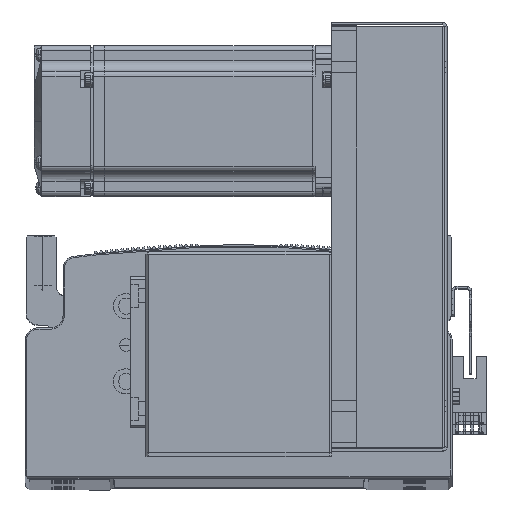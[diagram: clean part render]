
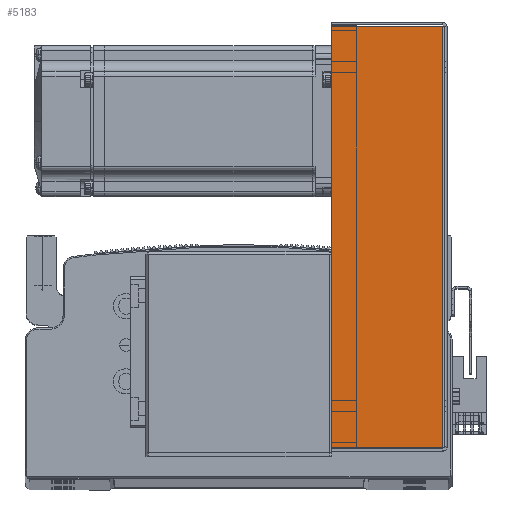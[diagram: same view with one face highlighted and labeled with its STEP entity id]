
A CAD part, top view. The second image highlights one B-rep face of the part: STEP entity #5183.
In plain terms, the highlighted planar face has unit normal (0, 0, 1).
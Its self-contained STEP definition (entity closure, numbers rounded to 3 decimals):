
#5183 = ADVANCED_FACE ( 'NONE', ( #86988 ), #57397, .F. ) ;
#15684 = DIRECTION ( 'NONE',  ( 0., 1., 0. ) ) ;
#15697 = CARTESIAN_POINT ( 'NONE',  ( -83.793, 0., 40.5 ) ) ;
#15737 = CARTESIAN_POINT ( 'NONE',  ( -84.5, 45., 40.5 ) ) ;
#15740 = DIRECTION ( 'NONE',  ( -1., 0., 0. ) ) ;
#15784 = CARTESIAN_POINT ( 'NONE',  ( 0., 0.737, 40.5 ) ) ;
#15808 = DIRECTION ( 'NONE',  ( -1., 0., 0. ) ) ;
#15891 = DIRECTION ( 'NONE',  ( 0., 1., 0. ) ) ;
#15892 = CARTESIAN_POINT ( 'NONE',  ( 83.793, 0., 40.5 ) ) ;
#20154 = EDGE_CURVE ( 'NONE', #41317, #41325, #74612, .T. ) ;
#20169 = EDGE_CURVE ( 'NONE', #41302, #41325, #74618, .T. ) ;
#20180 = EDGE_CURVE ( 'NONE', #41282, #41317, #74128, .T. ) ;
#20212 = EDGE_CURVE ( 'NONE', #41282, #41302, #75677, .T. ) ;
#34733 = AXIS2_PLACEMENT_3D ( 'NONE', #57378, #57398, #57363 ) ;
#40864 = EDGE_LOOP ( 'NONE', ( #56394, #56451, #56248, #56336 ) ) ;
#41282 = VERTEX_POINT ( 'NONE', #47616 ) ;
#41302 = VERTEX_POINT ( 'NONE', #47605 ) ;
#41317 = VERTEX_POINT ( 'NONE', #47596 ) ;
#41325 = VERTEX_POINT ( 'NONE', #47690 ) ;
#47596 = CARTESIAN_POINT ( 'NONE',  ( -83.793, 0.737, 40.5 ) ) ;
#47605 = CARTESIAN_POINT ( 'NONE',  ( 83.793, 45., 40.5 ) ) ;
#47616 = CARTESIAN_POINT ( 'NONE',  ( 83.793, 0.737, 40.5 ) ) ;
#47690 = CARTESIAN_POINT ( 'NONE',  ( -83.793, 45., 40.5 ) ) ;
#56248 = ORIENTED_EDGE ( 'NONE', *, *, #20169, .T. ) ;
#56336 = ORIENTED_EDGE ( 'NONE', *, *, #20154, .F. ) ;
#56394 = ORIENTED_EDGE ( 'NONE', *, *, #20180, .F. ) ;
#56451 = ORIENTED_EDGE ( 'NONE', *, *, #20212, .T. ) ;
#57363 = DIRECTION ( 'NONE',  ( -1., 0., 0. ) ) ;
#57378 = CARTESIAN_POINT ( 'NONE',  ( 0., 0., 40.5 ) ) ;
#57397 = PLANE ( 'NONE',  #34733 ) ;
#57398 = DIRECTION ( 'NONE',  ( 0., 0., -1. ) ) ;
#74128 = LINE ( 'NONE', #15784, #74140 ) ;
#74140 = VECTOR ( 'NONE', #15808, 1000. ) ;
#74601 = VECTOR ( 'NONE', #15740, 1000. ) ;
#74612 = LINE ( 'NONE', #15697, #74625 ) ;
#74618 = LINE ( 'NONE', #15737, #74601 ) ;
#74625 = VECTOR ( 'NONE', #15684, 1000. ) ;
#75677 = LINE ( 'NONE', #15892, #75694 ) ;
#75694 = VECTOR ( 'NONE', #15891, 1000. ) ;
#86988 = FACE_OUTER_BOUND ( 'NONE', #40864, .T. ) ;
